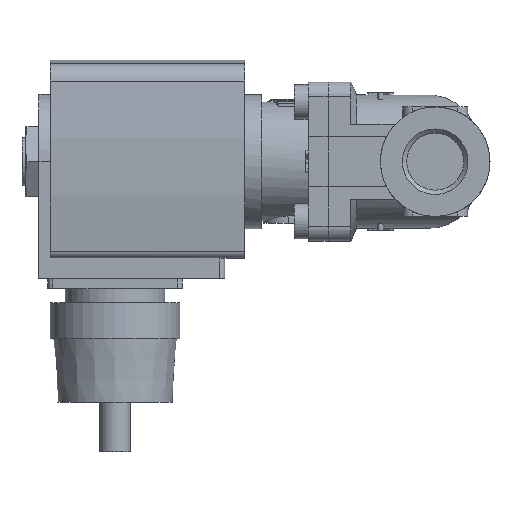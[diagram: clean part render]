
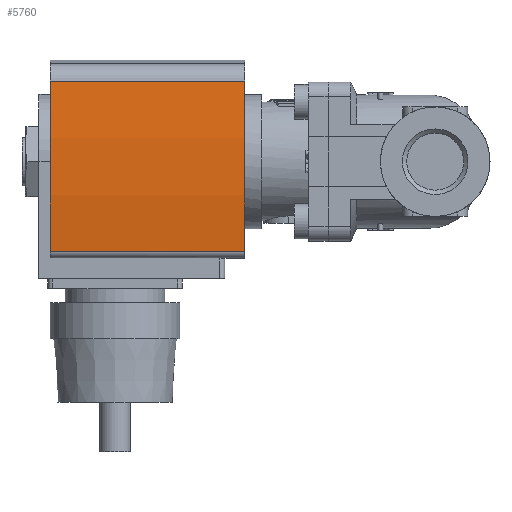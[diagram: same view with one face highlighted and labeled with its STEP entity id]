
A CAD part, left-side view. The second image highlights one B-rep face of the part: STEP entity #5760.
In plain terms, the highlighted cylindrical face has radius 130 mm (diameter 260 mm), a partial arc.
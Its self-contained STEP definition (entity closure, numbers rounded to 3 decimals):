
#230=CYLINDRICAL_SURFACE('',#6271,130.);
#601=LINE('',#9279,#997);
#607=LINE('',#9308,#1003);
#997=VECTOR('',#7584,1000.);
#1003=VECTOR('',#7616,1000.);
#2254=ORIENTED_EDGE('',*,*,#3069,.T.);
#2255=ORIENTED_EDGE('',*,*,#3070,.F.);
#2256=ORIENTED_EDGE('',*,*,#3059,.F.);
#2257=ORIENTED_EDGE('',*,*,#3054,.T.);
#3054=EDGE_CURVE('',#3564,#3563,#601,.T.);
#3059=EDGE_CURVE('',#3564,#3567,#3783,.T.);
#3069=EDGE_CURVE('',#3563,#3573,#3790,.T.);
#3070=EDGE_CURVE('',#3567,#3573,#607,.T.);
#3563=VERTEX_POINT('',#9278);
#3564=VERTEX_POINT('',#9280);
#3567=VERTEX_POINT('',#9289);
#3573=VERTEX_POINT('',#9307);
#3783=CIRCLE('',#6263,130.);
#3790=CIRCLE('',#6272,130.);
#4093=EDGE_LOOP('',(#2254,#2255,#2256,#2257));
#4422=FACE_BOUND('',#4093,.T.);
#5760=ADVANCED_FACE('',(#4422),#230,.T.);
#6263=AXIS2_PLACEMENT_3D('',#9288,#7593,#7594);
#6271=AXIS2_PLACEMENT_3D('',#9305,#7612,#7613);
#6272=AXIS2_PLACEMENT_3D('',#9306,#7614,#7615);
#7584=DIRECTION('',(0.,-1.,0.));
#7593=DIRECTION('',(0.,1.,0.));
#7594=DIRECTION('',(1.,0.,0.));
#7612=DIRECTION('',(0.,-1.,0.));
#7613=DIRECTION('',(0.,0.,-1.));
#7614=DIRECTION('',(0.,1.,0.));
#7615=DIRECTION('',(1.,0.,0.));
#7616=DIRECTION('',(0.,-1.,0.));
#9278=CARTESIAN_POINT('',(-18.071,-26.,14.738));
#9279=CARTESIAN_POINT('',(-18.071,13.,14.738));
#9280=CARTESIAN_POINT('',(-18.071,13.,14.738));
#9288=CARTESIAN_POINT('',(0.,13.,-114.));
#9289=CARTESIAN_POINT('',(16.195,13.,14.987));
#9305=CARTESIAN_POINT('',(0.,13.,-114.));
#9306=CARTESIAN_POINT('',(0.,-26.,-114.));
#9307=CARTESIAN_POINT('',(16.195,-26.,14.987));
#9308=CARTESIAN_POINT('',(16.195,13.,14.987));
